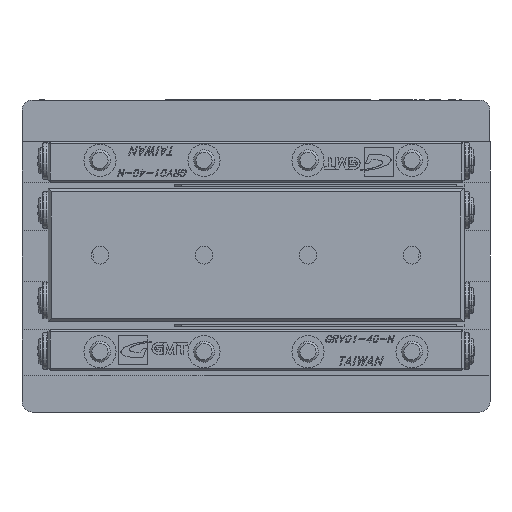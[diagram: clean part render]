
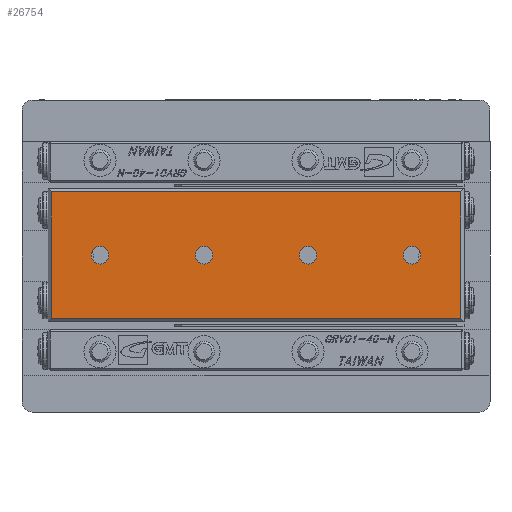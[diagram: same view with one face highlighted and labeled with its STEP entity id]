
A CAD part, front view. The second image highlights one B-rep face of the part: STEP entity #26754.
In plain terms, the highlighted planar face has unit normal (0, -1, 0).
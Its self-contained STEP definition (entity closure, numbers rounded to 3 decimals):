
#92 = DIRECTION ( 'NONE',  ( 0., 1., 0. ) ) ;
#99 = DIRECTION ( 'NONE',  ( 0., 0., 1. ) ) ;
#122 = CARTESIAN_POINT ( 'NONE',  ( 14.573, -7.962, 0.07 ) ) ;
#173 = CARTESIAN_POINT ( 'NONE',  ( -20.427, -7.962, 6.17 ) ) ;
#381 = CARTESIAN_POINT ( 'NONE',  ( -20.127, -7.962, 6.47 ) ) ;
#385 = DIRECTION ( 'NONE',  ( 0., 0., -1. ) ) ;
#452 = CARTESIAN_POINT ( 'NONE',  ( 19.273, -7.962, 6.47 ) ) ;
#455 = DIRECTION ( 'NONE',  ( 0., 0., 1. ) ) ;
#459 = DIRECTION ( 'NONE',  ( -1., 0., 0. ) ) ;
#6466 = CARTESIAN_POINT ( 'NONE',  ( 14.573, -7.962, -0.78 ) ) ;
#6476 = CARTESIAN_POINT ( 'NONE',  ( 14.573, -7.962, 0.92 ) ) ;
#6493 = CARTESIAN_POINT ( 'NONE',  ( 4.573, -7.962, -0.78 ) ) ;
#6495 = CARTESIAN_POINT ( 'NONE',  ( -15.427, -7.962, 0.92 ) ) ;
#6503 = CARTESIAN_POINT ( 'NONE',  ( -5.427, -7.962, 0.92 ) ) ;
#7249 = ORIENTED_EDGE ( 'NONE', *, *, #11588, .T. ) ;
#7250 = ORIENTED_EDGE ( 'NONE', *, *, #11604, .T. ) ;
#7251 = ORIENTED_EDGE ( 'NONE', *, *, #11605, .T. ) ;
#7252 = ORIENTED_EDGE ( 'NONE', *, *, #11475, .T. ) ;
#7253 = ORIENTED_EDGE ( 'NONE', *, *, #41722, .T. ) ;
#7254 = ORIENTED_EDGE ( 'NONE', *, *, #48022, .T. ) ;
#7255 = ORIENTED_EDGE ( 'NONE', *, *, #41717, .T. ) ;
#7256 = ORIENTED_EDGE ( 'NONE', *, *, #48028, .T. ) ;
#7257 = ORIENTED_EDGE ( 'NONE', *, *, #41724, .T. ) ;
#7258 = ORIENTED_EDGE ( 'NONE', *, *, #47997, .T. ) ;
#7259 = ORIENTED_EDGE ( 'NONE', *, *, #11564, .T. ) ;
#7260 = ORIENTED_EDGE ( 'NONE', *, *, #48012, .T. ) ;
#9312 = VERTEX_POINT ( 'NONE', #29668 ) ;
#9410 = VERTEX_POINT ( 'NONE', #36388 ) ;
#9432 = VERTEX_POINT ( 'NONE', #36262 ) ;
#9822 = DIRECTION ( 'NONE',  ( 0., 1., 0. ) ) ;
#9826 = CARTESIAN_POINT ( 'NONE',  ( -20.427, -7.962, 6.47 ) ) ;
#9829 = PLANE ( 'NONE',  #52460 ) ;
#9832 = DIRECTION ( 'NONE',  ( 0., 0., 1. ) ) ;
#11237 = LINE ( 'NONE', #37332, #11242 ) ;
#11242 = VECTOR ( 'NONE', #37034, 1000. ) ;
#11365 = CIRCLE ( 'NONE', #48304, 0.85 ) ;
#11411 = LINE ( 'NONE', #452, #11413 ) ;
#11413 = VECTOR ( 'NONE', #455, 1000. ) ;
#11475 = EDGE_CURVE ( 'NONE', #12231, #12205, #11237, .T. ) ;
#11564 = EDGE_CURVE ( 'NONE', #15414, #15404, #11365, .T. ) ;
#11588 = EDGE_CURVE ( 'NONE', #12205, #9312, #11411, .T. ) ;
#11604 = EDGE_CURVE ( 'NONE', #9312, #12160, #20712, .T. ) ;
#11605 = EDGE_CURVE ( 'NONE', #12160, #12231, #20714, .T. ) ;
#12160 = VERTEX_POINT ( 'NONE', #19028 ) ;
#12199 = VERTEX_POINT ( 'NONE', #19067 ) ;
#12205 = VERTEX_POINT ( 'NONE', #19073 ) ;
#12231 = VERTEX_POINT ( 'NONE', #19099 ) ;
#15404 = VERTEX_POINT ( 'NONE', #6466 ) ;
#15414 = VERTEX_POINT ( 'NONE', #6476 ) ;
#15431 = VERTEX_POINT ( 'NONE', #6493 ) ;
#15433 = VERTEX_POINT ( 'NONE', #6495 ) ;
#15441 = VERTEX_POINT ( 'NONE', #6503 ) ;
#19028 = CARTESIAN_POINT ( 'NONE',  ( -20.127, -7.962, 6.17 ) ) ;
#19067 = CARTESIAN_POINT ( 'NONE',  ( 4.573, -7.962, 0.92 ) ) ;
#19073 = CARTESIAN_POINT ( 'NONE',  ( 19.273, -7.962, -6.03 ) ) ;
#19099 = CARTESIAN_POINT ( 'NONE',  ( -20.127, -7.962, -6.03 ) ) ;
#20712 = LINE ( 'NONE', #173, #20715 ) ;
#20714 = LINE ( 'NONE', #381, #20717 ) ;
#20715 = VECTOR ( 'NONE', #459, 1000. ) ;
#20717 = VECTOR ( 'NONE', #385, 1000. ) ;
#25603 = EDGE_LOOP ( 'NONE', ( #7257, #7258 ) ) ;
#25604 = EDGE_LOOP ( 'NONE', ( #7255, #7256 ) ) ;
#25621 = EDGE_LOOP ( 'NONE', ( #7253, #7254 ) ) ;
#25624 = EDGE_LOOP ( 'NONE', ( #7249, #7250, #7251, #7252 ) ) ;
#25626 = EDGE_LOOP ( 'NONE', ( #7259, #7260 ) ) ;
#26754 = ADVANCED_FACE ( 'NONE', ( #50796, #50799, #50797, #50798, #50791 ), #9829, .F. ) ;
#29668 = CARTESIAN_POINT ( 'NONE',  ( 19.273, -7.962, 6.17 ) ) ;
#31236 = CIRCLE ( 'NONE', #43184, 0.85 ) ;
#31238 = CIRCLE ( 'NONE', #43188, 0.85 ) ;
#31239 = CIRCLE ( 'NONE', #43191, 0.85 ) ;
#31396 = CIRCLE ( 'NONE', #43196, 0.85 ) ;
#31431 = CIRCLE ( 'NONE', #43203, 0.85 ) ;
#31449 = CIRCLE ( 'NONE', #43204, 0.85 ) ;
#31452 = CIRCLE ( 'NONE', #43207, 0.85 ) ;
#36262 = CARTESIAN_POINT ( 'NONE',  ( -5.427, -7.962, -0.78 ) ) ;
#36388 = CARTESIAN_POINT ( 'NONE',  ( -15.427, -7.962, -0.78 ) ) ;
#37034 = DIRECTION ( 'NONE',  ( 1., 0., 0. ) ) ;
#37332 = CARTESIAN_POINT ( 'NONE',  ( -20.427, -7.962, -6.03 ) ) ;
#37822 = CARTESIAN_POINT ( 'NONE',  ( -15.427, -7.962, 0.07 ) ) ;
#37823 = DIRECTION ( 'NONE',  ( 0., 1., 0. ) ) ;
#37825 = DIRECTION ( 'NONE',  ( 0., 0., 1. ) ) ;
#37835 = CARTESIAN_POINT ( 'NONE',  ( -5.427, -7.962, 0.07 ) ) ;
#37836 = DIRECTION ( 'NONE',  ( 0., 1., 0. ) ) ;
#37837 = DIRECTION ( 'NONE',  ( 0., 0., 1. ) ) ;
#37839 = CARTESIAN_POINT ( 'NONE',  ( 4.573, -7.962, 0.07 ) ) ;
#37840 = DIRECTION ( 'NONE',  ( 0., 1., 0. ) ) ;
#37841 = DIRECTION ( 'NONE',  ( 0., 0., 1. ) ) ;
#39304 = CARTESIAN_POINT ( 'NONE',  ( 4.573, -7.962, 0.07 ) ) ;
#39305 = DIRECTION ( 'NONE',  ( 0., 1., 0. ) ) ;
#39306 = DIRECTION ( 'NONE',  ( 0., 0., 1. ) ) ;
#40474 = CARTESIAN_POINT ( 'NONE',  ( 14.573, -7.962, 0.07 ) ) ;
#40475 = DIRECTION ( 'NONE',  ( 0., 1., 0. ) ) ;
#40476 = DIRECTION ( 'NONE',  ( 0., 0., 1. ) ) ;
#40495 = CARTESIAN_POINT ( 'NONE',  ( -5.427, -7.962, 0.07 ) ) ;
#40496 = DIRECTION ( 'NONE',  ( 0., 1., 0. ) ) ;
#40497 = DIRECTION ( 'NONE',  ( 0., 0., 1. ) ) ;
#40575 = CARTESIAN_POINT ( 'NONE',  ( -15.427, -7.962, 0.07 ) ) ;
#40576 = DIRECTION ( 'NONE',  ( 0., 1., 0. ) ) ;
#40577 = DIRECTION ( 'NONE',  ( 0., 0., 1. ) ) ;
#41717 = EDGE_CURVE ( 'NONE', #15433, #9410, #31236, .T. ) ;
#41722 = EDGE_CURVE ( 'NONE', #15441, #9432, #31238, .T. ) ;
#41724 = EDGE_CURVE ( 'NONE', #12199, #15431, #31239, .T. ) ;
#43184 = AXIS2_PLACEMENT_3D ( 'NONE', #37822, #37823, #37825 ) ;
#43188 = AXIS2_PLACEMENT_3D ( 'NONE', #37835, #37836, #37837 ) ;
#43191 = AXIS2_PLACEMENT_3D ( 'NONE', #37839, #37840, #37841 ) ;
#43196 = AXIS2_PLACEMENT_3D ( 'NONE', #39304, #39305, #39306 ) ;
#43203 = AXIS2_PLACEMENT_3D ( 'NONE', #40474, #40475, #40476 ) ;
#43204 = AXIS2_PLACEMENT_3D ( 'NONE', #40495, #40496, #40497 ) ;
#43207 = AXIS2_PLACEMENT_3D ( 'NONE', #40575, #40576, #40577 ) ;
#47997 = EDGE_CURVE ( 'NONE', #15431, #12199, #31396, .T. ) ;
#48012 = EDGE_CURVE ( 'NONE', #15404, #15414, #31431, .T. ) ;
#48022 = EDGE_CURVE ( 'NONE', #9432, #15441, #31449, .T. ) ;
#48028 = EDGE_CURVE ( 'NONE', #9410, #15433, #31452, .T. ) ;
#48304 = AXIS2_PLACEMENT_3D ( 'NONE', #122, #92, #99 ) ;
#50791 = FACE_BOUND ( 'NONE', #25626, .T. ) ;
#50796 = FACE_OUTER_BOUND ( 'NONE', #25624, .T. ) ;
#50797 = FACE_BOUND ( 'NONE', #25604, .T. ) ;
#50798 = FACE_BOUND ( 'NONE', #25603, .T. ) ;
#50799 = FACE_BOUND ( 'NONE', #25621, .T. ) ;
#52460 = AXIS2_PLACEMENT_3D ( 'NONE', #9826, #9822, #9832 ) ;
